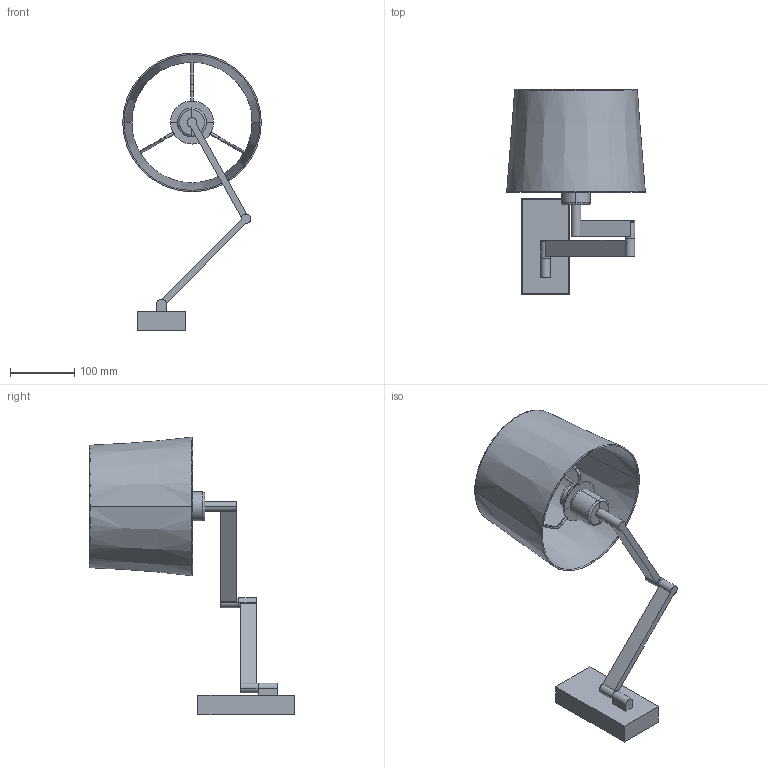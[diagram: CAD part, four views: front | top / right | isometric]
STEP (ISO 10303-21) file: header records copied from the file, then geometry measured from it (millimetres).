
FILE_DESCRIPTION(/* description */ (''),/* implementation_level */ '2;1');
FILE_NAME(/* name */ 'C:\Users\FrancoSartori\Documents\FARO\01_En Proceso\00_ARTIS\03_Publicación\68495-01.stp',/* time_stamp */ '2021-05-25T10:03:33+02:00',/* author */ ('FrancoSartori'),/* organization */ (''),/* preprocessor_version */ 'ST-DEVELOPER v18.1',/* originating_system */ 'AutoCAD Mechanical',/* authorisation */ '');
FILE_SCHEMA (('AUTOMOTIVE_DESIGN { 1 0 10303 214 3 1 1 }'));
Length unit declared in the file: millimetre
Products named in the file (3): Product; 68494_68495 - structure-564583-_3D_; 2P0111 - 2P0111 White textile shade-564584-_3D_
Assembly tree (2 placements, depth 2):
  Product
    68494_68495 - structure-564583-_3D_
    2P0111 - 2P0111 White textile shade-564584-_3D_
Bounding box: 214.84 x 318.31 x 430.5 mm (x, y, z)
Volume: 370772.2 mm3; surface area: 536915.6 mm2
Topology: 20 solids, 20 shells, 189 faces, 400 edges, 244 vertices
Faces by surface type: plane 98, cylinder 65, torus 16, cone 10
Entity records: 6230 total; most frequent: CARTESIAN_POINT 2076, DIRECTION 862, ORIENTED_EDGE 800, EDGE_CURVE 400, AXIS2_PLACEMENT_3D 330, VERTEX_POINT 244, LINE 202, VECTOR 202
